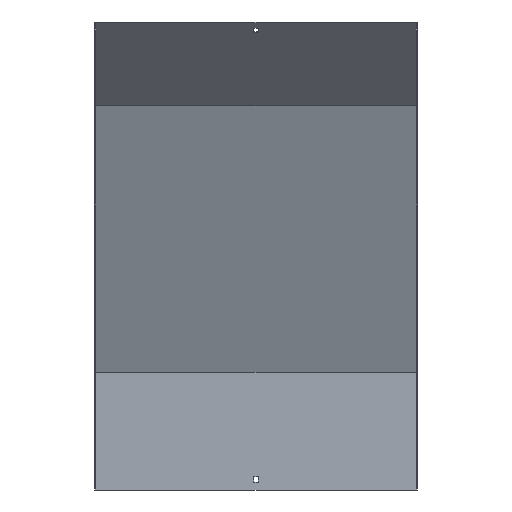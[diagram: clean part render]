
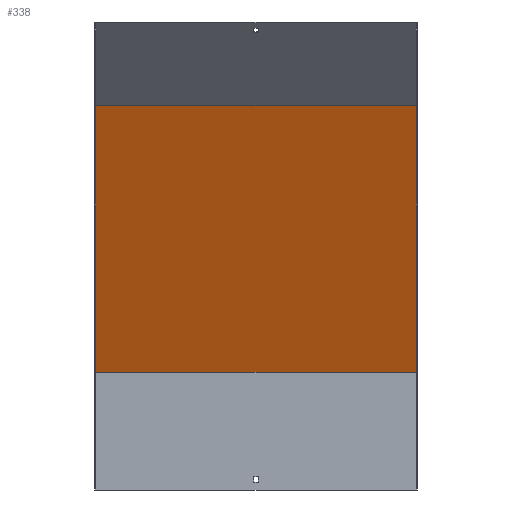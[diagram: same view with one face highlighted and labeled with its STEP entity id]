
A CAD part, front view. The second image highlights one B-rep face of the part: STEP entity #338.
In plain terms, the highlighted planar face has unit normal (0, -0.924, -0.383).
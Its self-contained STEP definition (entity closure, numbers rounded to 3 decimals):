
#4 = VECTOR ( 'NONE', #668, 1000. ) ;
#16 = EDGE_CURVE ( 'NONE', #27, #765, #513, .T. ) ;
#27 = VERTEX_POINT ( 'NONE', #588 ) ;
#71 = EDGE_CURVE ( 'NONE', #27, #639, #830, .T. ) ;
#78 = DIRECTION ( 'NONE',  ( 0., -0.924, -0.383 ) ) ;
#113 = DIRECTION ( 'NONE',  ( -1., 0., 0. ) ) ;
#125 = DIRECTION ( 'NONE',  ( 0., 0.383, -0.924 ) ) ;
#168 = ORIENTED_EDGE ( 'NONE', *, *, #454, .T. ) ;
#210 = DIRECTION ( 'NONE',  ( 0., -0.383, 0.924 ) ) ;
#236 = EDGE_CURVE ( 'NONE', #639, #773, #617, .T. ) ;
#304 = CARTESIAN_POINT ( 'NONE',  ( 251.5, -153.463, 598.834 ) ) ;
#338 = ADVANCED_FACE ( 'NONE', ( #726 ), #341, .T. ) ;
#341 = PLANE ( 'NONE',  #518 ) ;
#391 = ORIENTED_EDGE ( 'NONE', *, *, #16, .T. ) ;
#421 = CARTESIAN_POINT ( 'NONE',  ( -250., -153.463, 598.834 ) ) ;
#428 = EDGE_LOOP ( 'NONE', ( #628, #825, #391, #168 ) ) ;
#431 = DIRECTION ( 'NONE',  ( -1., 0., 0. ) ) ;
#439 = CARTESIAN_POINT ( 'NONE',  ( 251.5, 18.5, 183.68 ) ) ;
#454 = EDGE_CURVE ( 'NONE', #765, #773, #756, .T. ) ;
#462 = CARTESIAN_POINT ( 'NONE',  ( -250., 18.5, 183.68 ) ) ;
#490 = VECTOR ( 'NONE', #210, 1000. ) ;
#513 = LINE ( 'NONE', #608, #490 ) ;
#518 = AXIS2_PLACEMENT_3D ( 'NONE', #599, #78, #125 ) ;
#588 = CARTESIAN_POINT ( 'NONE',  ( 250., 18.5, 183.68 ) ) ;
#599 = CARTESIAN_POINT ( 'NONE',  ( 251.5, 17.092, 187.08 ) ) ;
#608 = CARTESIAN_POINT ( 'NONE',  ( 250., 80.731, 33.44 ) ) ;
#617 = LINE ( 'NONE', #755, #4 ) ;
#628 = ORIENTED_EDGE ( 'NONE', *, *, #236, .F. ) ;
#639 = VERTEX_POINT ( 'NONE', #462 ) ;
#668 = DIRECTION ( 'NONE',  ( 0., -0.383, 0.924 ) ) ;
#691 = CARTESIAN_POINT ( 'NONE',  ( 250., -153.463, 598.834 ) ) ;
#703 = VECTOR ( 'NONE', #431, 1000. ) ;
#705 = VECTOR ( 'NONE', #113, 1000. ) ;
#726 = FACE_OUTER_BOUND ( 'NONE', #428, .T. ) ;
#755 = CARTESIAN_POINT ( 'NONE',  ( -250., 80.731, 33.44 ) ) ;
#756 = LINE ( 'NONE', #304, #703 ) ;
#765 = VERTEX_POINT ( 'NONE', #691 ) ;
#773 = VERTEX_POINT ( 'NONE', #421 ) ;
#825 = ORIENTED_EDGE ( 'NONE', *, *, #71, .F. ) ;
#830 = LINE ( 'NONE', #439, #705 ) ;
